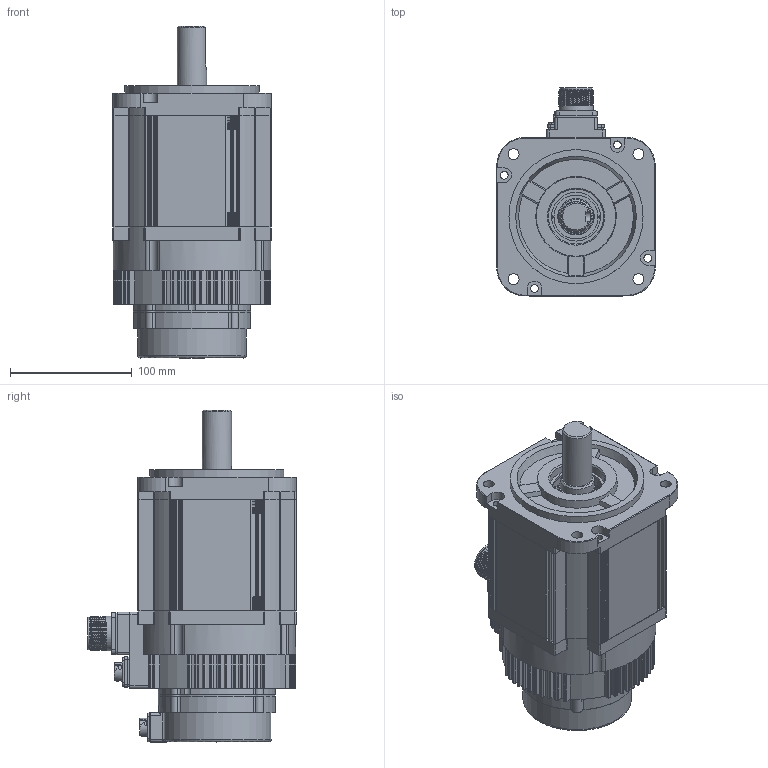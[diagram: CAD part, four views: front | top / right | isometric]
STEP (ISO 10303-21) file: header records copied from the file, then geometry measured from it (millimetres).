
FILE_DESCRIPTION(/* description */ (''),/* implementation_level */ '2;1');
FILE_NAME(/* name */ 'C:\Users\11755\Desktop\騰禾380V\外型圖\SMP系列_馬達外型圖(客戶版)\3D-STP\SMP-H180B.stp',/* time_stamp */ '2021-07-26T18:10:41+08:00',/* author */ ('11755'),/* organization */ (''),/* preprocessor_version */ 'ST-DEVELOPER v17',/* originating_system */ 'Autodesk Inventor 2019',/* authorisation */ '');
FILE_SCHEMA (('AUTOMOTIVE_DESIGN { 1 0 10303 214 3 1 1 }'));
Length unit declared in the file: millimetre
Products named in the file (1): SMP-H180B
Bounding box: 130 x 170.9 x 272.4 mm (x, y, z)
Surface area: 208398.8 mm2 (no closed solid volume)
Topology: 0 solids, 28 shells, 839 faces, 2703 edges, 1894 vertices
Faces by surface type: cylinder 438, plane 347, torus 21, cone 17, bspline 16
Full cylindrical faces by diameter (mm): 2.05 x4, 3.2 x12, 3.5 x8, 4.5 x3, 6 x1, 6.5 x8, 8.5 x3, 9 x4, 11.8 x2, 15.2 x2, 23.5 x1, 24 x1, 26.5 x1, 26.976 x7, 28 x1, 28.5 x8, 29.9 x1, 40 x1, 45 x1, 62 x1, 110 x1, 122 x1
Entity records: 36286 total; most frequent: CARTESIAN_POINT 11343, DIRECTION 5213, ORIENTED_EDGE 4704, EDGE_CURVE 2701, AXIS2_PLACEMENT_3D 1954, VERTEX_POINT 1894, LINE 1305, VECTOR 1305
